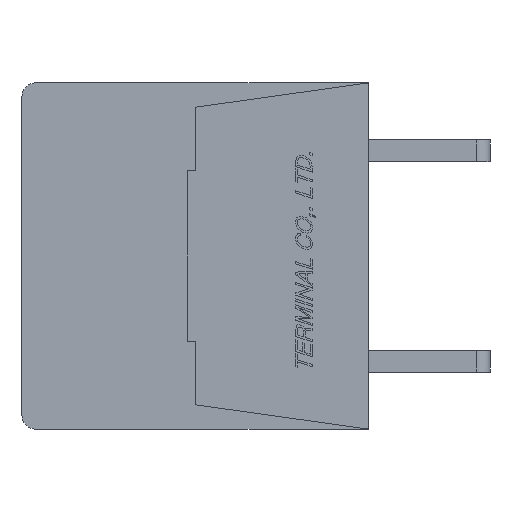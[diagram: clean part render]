
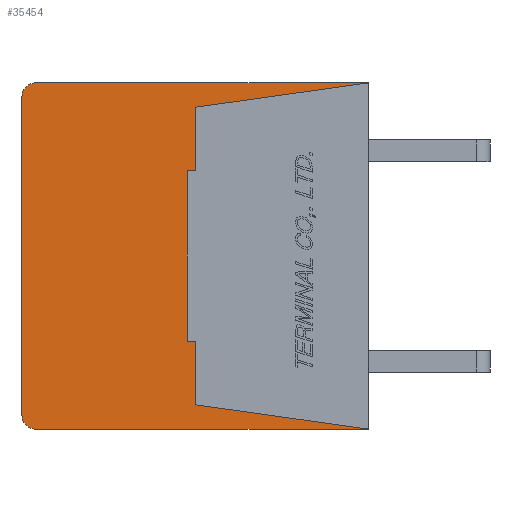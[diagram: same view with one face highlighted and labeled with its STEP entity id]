
A CAD part, left-side view. The second image highlights one B-rep face of the part: STEP entity #35454.
In plain terms, the highlighted planar face has unit normal (-1, 0, 0).
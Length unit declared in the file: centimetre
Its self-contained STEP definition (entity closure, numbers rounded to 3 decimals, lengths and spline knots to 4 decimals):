
#1808=CIRCLE('',#60655,0.05);
#1809=CIRCLE('',#60658,0.05);
#3164=VERTEX_POINT('',#49323);
#3165=VERTEX_POINT('',#49325);
#3166=VERTEX_POINT('',#49329);
#3167=VERTEX_POINT('',#49333);
#3168=VERTEX_POINT('',#49337);
#3169=VERTEX_POINT('',#49341);
#3170=VERTEX_POINT('',#49345);
#3171=VERTEX_POINT('',#49347);
#3172=VERTEX_POINT('',#49349);
#3173=VERTEX_POINT('',#49351);
#3174=VERTEX_POINT('',#49353);
#3175=VERTEX_POINT('',#49355);
#6922=VECTOR('',#41124,1.);
#6926=VECTOR('',#41133,1.);
#6929=VECTOR('',#41141,1.);
#6930=VECTOR('',#41143,1.);
#6931=VECTOR('',#41144,1.);
#6932=VECTOR('',#41145,1.);
#6933=VECTOR('',#41146,1.);
#6934=VECTOR('',#41147,1.);
#6935=VECTOR('',#41148,1.);
#6936=VECTOR('',#41149,1.);
#11090=LINE('',#49324,#6922);
#11094=LINE('',#49334,#6926);
#11097=LINE('',#49342,#6929);
#11098=LINE('',#49344,#6930);
#11099=LINE('',#49346,#6931);
#11100=LINE('',#49348,#6932);
#11101=LINE('',#49350,#6933);
#11102=LINE('',#49352,#6934);
#11103=LINE('',#49354,#6935);
#11104=LINE('',#49356,#6936);
#15742=EDGE_CURVE('',#3165,#3164,#11090,.T.);
#15745=EDGE_CURVE('',#3166,#3164,#1808,.T.);
#15747=EDGE_CURVE('',#3166,#3167,#11094,.T.);
#15749=EDGE_CURVE('',#3168,#3167,#1809,.T.);
#15751=EDGE_CURVE('',#3168,#3169,#11097,.T.);
#15752=EDGE_CURVE('',#3170,#3165,#11098,.T.);
#15753=EDGE_CURVE('',#3169,#3171,#11099,.T.);
#15754=EDGE_CURVE('',#3171,#3172,#11100,.T.);
#15755=EDGE_CURVE('',#3172,#3173,#11101,.T.);
#15756=EDGE_CURVE('',#3173,#3174,#11102,.T.);
#15757=EDGE_CURVE('',#3174,#3175,#11103,.T.);
#15758=EDGE_CURVE('',#3175,#3170,#11104,.T.);
#22971=ORIENTED_EDGE('',*,*,#15752,.T.);
#22972=ORIENTED_EDGE('',*,*,#15742,.T.);
#22973=ORIENTED_EDGE('',*,*,#15745,.F.);
#22974=ORIENTED_EDGE('',*,*,#15747,.T.);
#22975=ORIENTED_EDGE('',*,*,#15749,.F.);
#22976=ORIENTED_EDGE('',*,*,#15751,.T.);
#22977=ORIENTED_EDGE('',*,*,#15753,.T.);
#22978=ORIENTED_EDGE('',*,*,#15754,.T.);
#22979=ORIENTED_EDGE('',*,*,#15755,.T.);
#22980=ORIENTED_EDGE('',*,*,#15756,.T.);
#22981=ORIENTED_EDGE('',*,*,#15757,.T.);
#22982=ORIENTED_EDGE('',*,*,#15758,.T.);
#30880=EDGE_LOOP('',(#22971,#22972,#22973,#22974,#22975,#22976,#22977,#22978,
#22979,#22980,#22981,#22982));
#33216=FACE_BOUND('',#30880,.T.);
#35454=ADVANCED_FACE('',(#33216),#37384,.F.);
#37384=PLANE('',#60660);
#41124=DIRECTION('',(0.,1.,0.));
#41129=DIRECTION('',(1.,0.,0.));
#41130=DIRECTION('',(0.,0.,-0.05));
#41133=DIRECTION('',(0.,0.,-1.));
#41137=DIRECTION('',(1.,0.,0.));
#41138=DIRECTION('',(0.,0.,-0.05));
#41141=DIRECTION('',(0.,-1.,0.));
#41142=DIRECTION('',(1.,0.,0.));
#41143=DIRECTION('',(0.,-0.99,0.139));
#41144=DIRECTION('',(0.,0.99,0.139));
#41145=DIRECTION('',(0.,0.,1.));
#41146=DIRECTION('',(0.,1.,0.));
#41147=DIRECTION('',(0.,0.,1.));
#41148=DIRECTION('',(0.,-1.,0.));
#41149=DIRECTION('',(0.,0.,1.));
#49323=CARTESIAN_POINT('',(-1.,1.23,0.64));
#49324=CARTESIAN_POINT('',(-1.,0.,0.64));
#49325=CARTESIAN_POINT('',(-1.,0.,0.64));
#49329=CARTESIAN_POINT('',(-1.,1.28,0.59));
#49330=CARTESIAN_POINT('',(-1.,1.23,0.59));
#49333=CARTESIAN_POINT('',(-1.,1.28,-0.59));
#49334=CARTESIAN_POINT('',(-1.,1.28,0.59));
#49337=CARTESIAN_POINT('',(-1.,1.23,-0.64));
#49338=CARTESIAN_POINT('',(-1.,1.23,-0.59));
#49341=CARTESIAN_POINT('',(-1.,0.,-0.64));
#49342=CARTESIAN_POINT('',(-1.,1.23,-0.64));
#49343=CARTESIAN_POINT('',(-1.,0.6345,0.));
#49344=CARTESIAN_POINT('',(-1.,0.64,0.55));
#49345=CARTESIAN_POINT('',(-1.,0.64,0.55));
#49346=CARTESIAN_POINT('',(-1.,0.,-0.64));
#49347=CARTESIAN_POINT('',(-1.,0.64,-0.55));
#49348=CARTESIAN_POINT('',(-1.,0.64,-0.55));
#49349=CARTESIAN_POINT('',(-1.,0.64,-0.315));
#49350=CARTESIAN_POINT('',(-1.,0.64,-0.315));
#49351=CARTESIAN_POINT('',(-1.,0.67,-0.315));
#49352=CARTESIAN_POINT('',(-1.,0.67,-0.315));
#49353=CARTESIAN_POINT('',(-1.,0.67,0.315));
#49354=CARTESIAN_POINT('',(-1.,0.67,0.315));
#49355=CARTESIAN_POINT('',(-1.,0.64,0.315));
#49356=CARTESIAN_POINT('',(-1.,0.64,0.315));
#60655=AXIS2_PLACEMENT_3D('',#49330,#41129,#41130);
#60658=AXIS2_PLACEMENT_3D('',#49338,#41137,#41138);
#60660=AXIS2_PLACEMENT_3D('',#49343,#41142,$);
